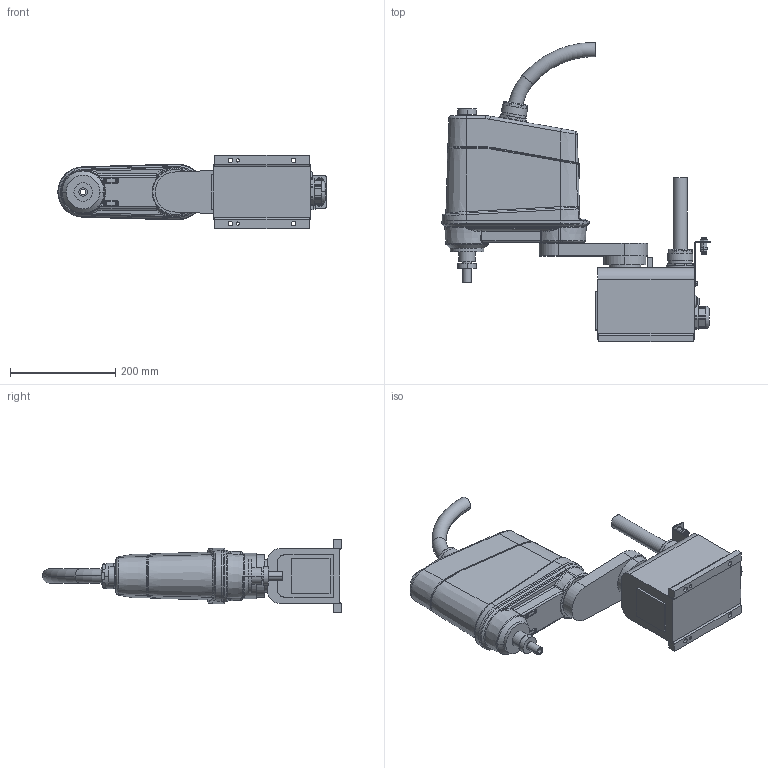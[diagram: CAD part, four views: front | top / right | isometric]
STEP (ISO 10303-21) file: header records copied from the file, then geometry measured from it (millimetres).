
FILE_DESCRIPTION((''),'2;1');
FILE_NAME('THL300_3D_ASM','2024-06-11T10:57:13',('15575'),(''),'CREO PARAMETRIC BY PTC INC, 2020454','CREO PARAMETRIC BY PTC INC, 2020454','');
FILE_SCHEMA(('AUTOMOTIVE_DESIGN { 1 0 10303 214 1 1 1 1 }'));
Length unit declared in the file: millimetre
Products named in the file (5): THL34_BASE; THL300_1ST_ARM; THL300_BALL_SCREW; THL300_2ND_ARM_; THL300_3D_ASM
Assembly tree (4 placements, depth 2):
  THL300_3D_ASM
    THL34_BASE
    THL300_1ST_ARM
    THL300_BALL_SCREW
    THL300_2ND_ARM_
Bounding box: 510 x 568.45 x 140 mm (x, y, z)
Volume: 2885144.6 mm3; surface area: 756232.5 mm2
Topology: 4 solids, 8 shells, 1075 faces, 2561 edges, 1625 vertices
Faces by surface type: plane 428, cylinder 408, torus 94, bspline 93, cone 40, sphere 12
Entity records: 40413 total; most frequent: CARTESIAN_POINT 10739, DIRECTION 5360, ORIENTED_EDGE 5122, EDGE_CURVE 2561, AXIS2_PLACEMENT_3D 2110, VERTEX_POINT 1625, EDGE_LOOP 1234, VECTOR 1140
